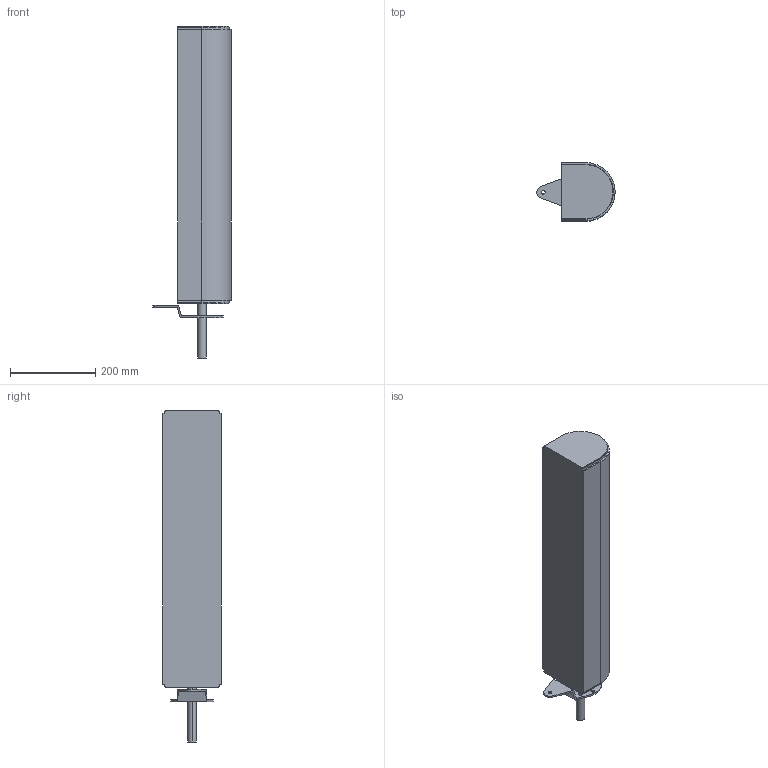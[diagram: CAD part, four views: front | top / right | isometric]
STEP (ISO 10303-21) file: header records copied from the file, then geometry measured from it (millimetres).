
FILE_DESCRIPTION (( 'STEP AP214' ), '1' );
FILE_NAME ('FS-MTC2-150-INOX Aandrijving & omloop.650 aandr links ra.STEP', '2017-02-08T12:38:42', ( '' ), ( '' ), 'SwSTEP 2.0', 'SolidWorks 2016', '' );
FILE_SCHEMA (( 'AUTOMOTIVE_DESIGN' ));
Length unit declared in the file: millimetre
Products named in the file (1): FS-MTC2-150-INOX Aandrijving & omloop.650 aandr links ra
Bounding box: 183.25 x 136.5 x 778 mm (x, y, z)
Volume: 9856103.8 mm3; surface area: 363138.5 mm2
Topology: 2 solids, 2 shells, 78 faces, 219 edges, 146 vertices
Faces by surface type: plane 42, cylinder 36
Entity records: 2618 total; most frequent: DIRECTION 449, CARTESIAN_POINT 444, ORIENTED_EDGE 438, EDGE_CURVE 219, AXIS2_PLACEMENT_3D 151, LINE 147, VECTOR 147, VERTEX_POINT 146
